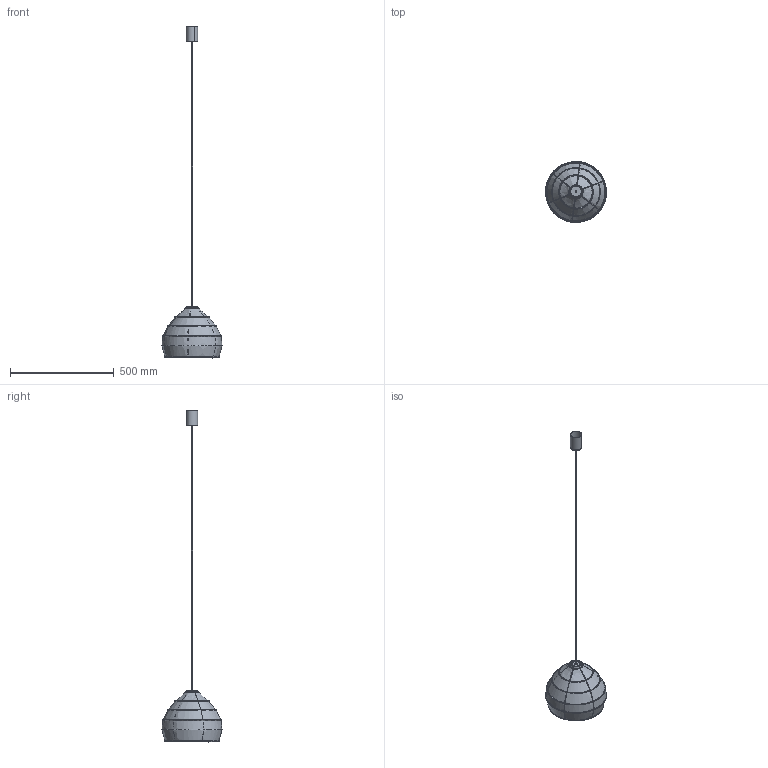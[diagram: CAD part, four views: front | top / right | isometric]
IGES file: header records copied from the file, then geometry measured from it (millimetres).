
Start section: SolidWorks IGES file using analytic representation for surfaces
Global section: file name: C:\Users\anna.bielnik\Desktop\BOHO S\BOHO-S-11150\BOHO S PM.IGS; native system: SolidWorks 2023; preprocessor: SolidWorks 2023; author: anna.bielnik; date: 240208.074610; units: millimetre
Bounding box: 293.49 x 293.49 x 1600.62 mm (x, y, z)
Surface area: 499383 mm2 (no closed solid volume)
Topology: 0 solids, 0 shells, 181 faces, 4284 edges, 4281 vertices
Faces by surface type: bspline 133, revolution 48
